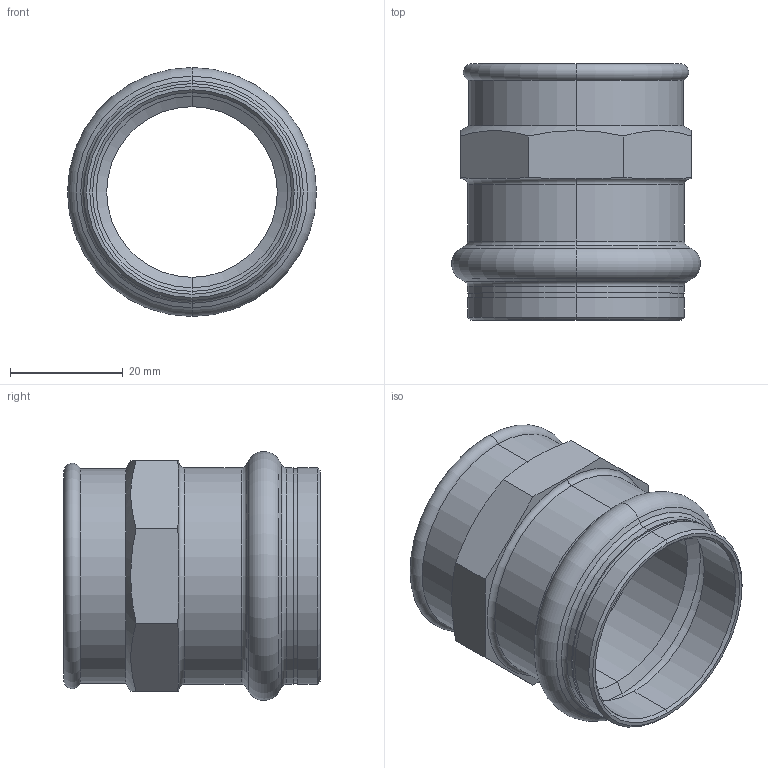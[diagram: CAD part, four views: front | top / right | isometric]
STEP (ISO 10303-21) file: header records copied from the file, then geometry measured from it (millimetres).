
FILE_DESCRIPTION (( 'STEP AP203' ), '1' );
FILE_NAME ('SP4270G Ø35 1.STEP', '2017-04-26T08:33:54', ( '' ), ( '' ), 'SwSTEP 2.0', 'SolidWorks 2016', '' );
FILE_SCHEMA (( 'CONFIG_CONTROL_DESIGN' ));
Length unit declared in the file: millimetre
Products named in the file (1): SP4270G ﾘ35 1
Bounding box: 44.2 x 45.5 x 44.2 mm (x, y, z)
Volume: 15118.5 mm3; surface area: 12351.1 mm2
Topology: 1 solids, 1 shells, 63 faces, 136 edges, 78 vertices
Faces by surface type: cone 20, cylinder 18, plane 13, torus 12
Entity records: 1865 total; most frequent: CARTESIAN_POINT 406, DIRECTION 314, ORIENTED_EDGE 272, EDGE_CURVE 136, AXIS2_PLACEMENT_3D 134, VERTEX_POINT 78, CIRCLE 70, EDGE_LOOP 68
